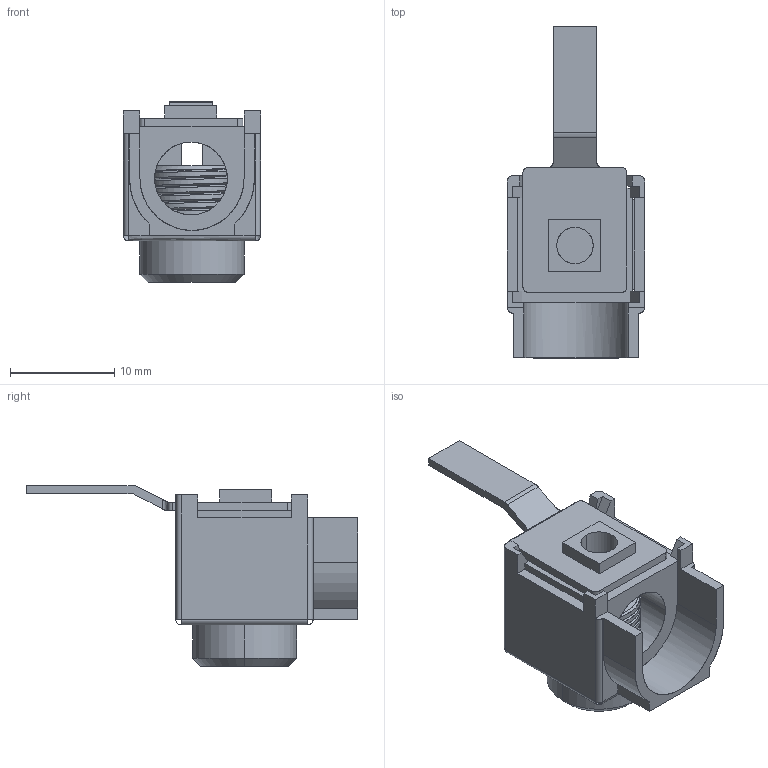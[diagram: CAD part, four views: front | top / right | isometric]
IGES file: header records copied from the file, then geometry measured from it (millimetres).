
Start section: SolidWorks IGES file using analytic representation for surfaces
Global section: file name: \\Brjgs100\dfsweg\GROUPS\BR_SC_JGS_WA_TECNICO\ENG\Usuarios\Rodrigob\conversão\Linha Predial\Produto\Acessorios Minidisjuntores e Seccionadores\Projetecnica\AL-BR\AL-BR.IGS; native system: SolidWorks 2018; preprocessor: SolidWorks 2018; author: rodrigob; date: 210910.105054; units: millimetre
Bounding box: 13.2 x 31.9 x 17.4 mm (x, y, z)
Surface area: 2554.9 mm2 (no closed solid volume)
Topology: 0 solids, 0 shells, 251 faces, 2357 edges, 2353 vertices
Faces by surface type: bspline 162, revolution 89
